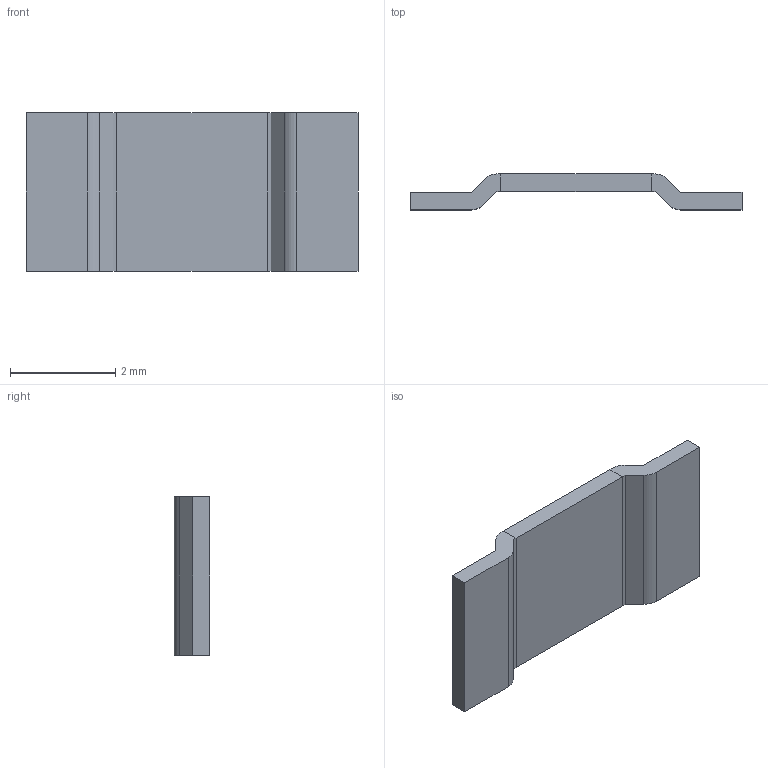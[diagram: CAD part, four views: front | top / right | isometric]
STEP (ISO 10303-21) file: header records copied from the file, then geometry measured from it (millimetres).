
FILE_DESCRIPTION (( 'STEP AP203' ), '1' );
FILE_NAME ('EBWK 2512-4m¦¸.STEP', '2023-11-01T05:45:18', ( 'meks@163.com' ), ( '' ), 'SwSTEP 2.0', 'SolidWorks 2020', '' );
FILE_SCHEMA (( 'CONFIG_CONTROL_DESIGN' ));
Length unit declared in the file: millimetre
Products named in the file (1): EBWK 2512-4m次
Bounding box: 6.3 x 0.68 x 3 mm (x, y, z)
Volume: 6.5 mm3; surface area: 50.1 mm2
Topology: 3 solids, 3 shells, 147 faces, 390 edges, 260 vertices
Faces by surface type: plane 117, bspline 18, cylinder 12
Entity records: 5701 total; most frequent: CARTESIAN_POINT 2064, ORIENTED_EDGE 780, DIRECTION 638, EDGE_CURVE 390, LINE 330, VECTOR 330, VERTEX_POINT 260, EDGE_LOOP 158
